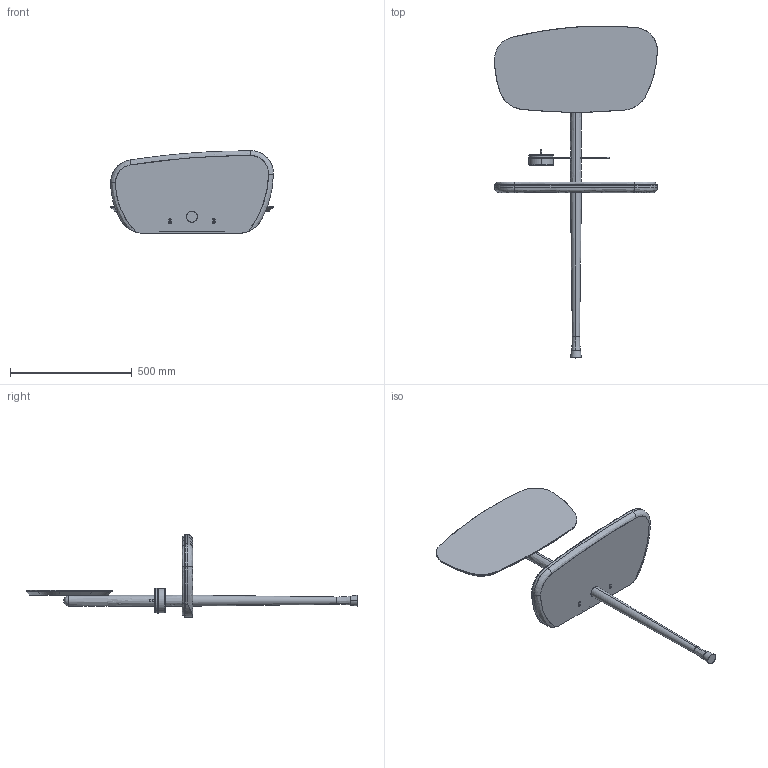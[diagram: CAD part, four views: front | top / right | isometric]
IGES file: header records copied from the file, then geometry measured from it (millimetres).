
Start section: SolidWorks IGES file using analytic representation for surfaces
Global section: file name: N:\OT\OFICINA TECNICA\TECNICO DEFINITIVO\NOMON HOME\3D NOMON HOME\MOMENTOS\TOCADOR\TOCADOR_MARMOL.IGS; native system: SolidWorks 2016; preprocessor: SolidWorks 2016; author: Usuario; date: 171009.092954; units: millimetre
Bounding box: 670.55 x 1365.61 x 340 mm (x, y, z)
Surface area: 1998904.3 mm2 (no closed solid volume)
Topology: 0 solids, 0 shells, 327 faces, 5768 edges, 5768 vertices
Faces by surface type: revolution 169, bspline 158
